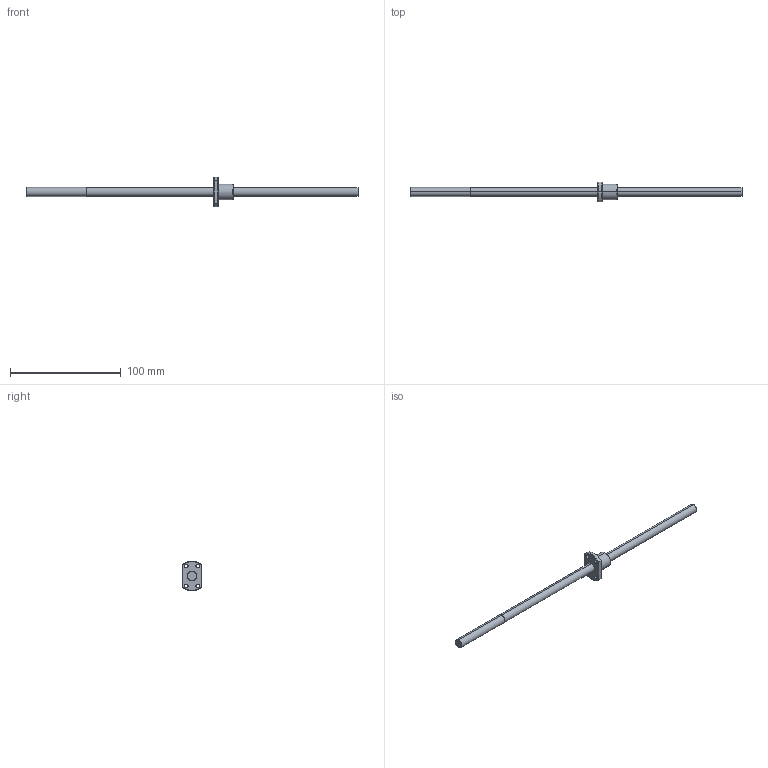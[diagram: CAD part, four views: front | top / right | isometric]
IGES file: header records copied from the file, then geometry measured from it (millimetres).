
Start section: SolidWorks IGES file using analytic representation for surfaces
Global section: file name: C:\Users\tsuch\OneDrive\デスクトップ\BSS0802.IGS; native system: SolidWorks 2019; preprocessor: SolidWorks 2019; author: tsuch; date: 240514.112135; units: millimetre
Bounding box: 300 x 18 x 27 mm (x, y, z)
Surface area: 9898.2 mm2 (no closed solid volume)
Topology: 0 solids, 0 shells, 41 faces, 690 edges, 690 vertices
Faces by surface type: revolution 29, bspline 12
